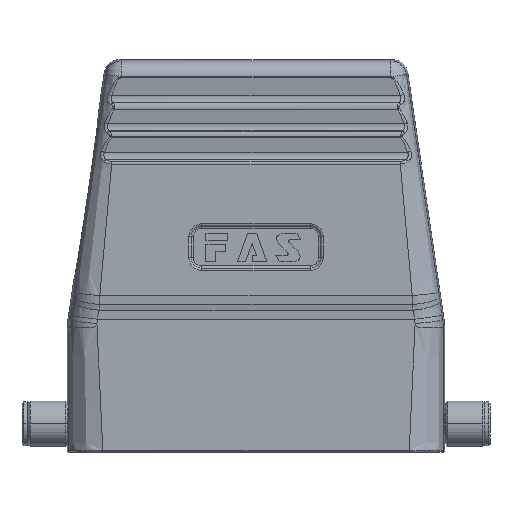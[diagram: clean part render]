
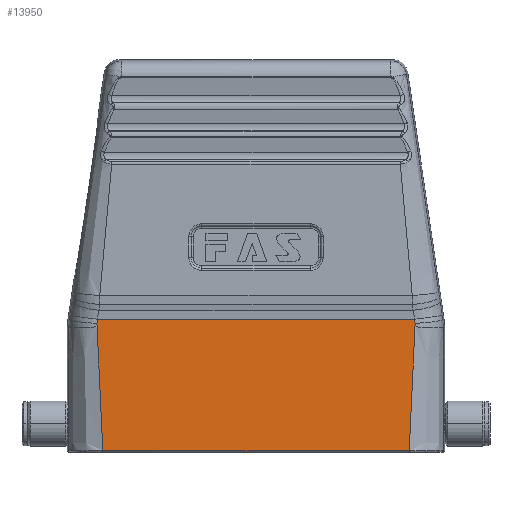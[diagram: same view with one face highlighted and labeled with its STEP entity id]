
A CAD part, top view. The second image highlights one B-rep face of the part: STEP entity #13950.
In plain terms, the highlighted planar face has unit normal (0, 0, 1).
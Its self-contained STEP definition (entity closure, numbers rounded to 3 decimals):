
#11 = DIRECTION ( 'NONE',  ( -1., 0., 0. ) ) ;
#166 = CARTESIAN_POINT ( 'NONE',  ( 30.786, 52.442, 21.5 ) ) ;
#414 = CARTESIAN_POINT ( 'NONE',  ( 30.772, 51.92, 21.5 ) ) ;
#696 = CARTESIAN_POINT ( 'NONE',  ( -30.734, 53.055, 21.5 ) ) ;
#1313 = CARTESIAN_POINT ( 'NONE',  ( -32.019, 27.39, 21.5 ) ) ;
#1537 = CARTESIAN_POINT ( 'NONE',  ( -30.091, 42.482, 21.5 ) ) ;
#1945 = EDGE_CURVE ( 'NONE', #23430, #14913, #9013, .T. ) ;
#2102 =( BOUNDED_CURVE ( )  B_SPLINE_CURVE ( 3, ( #21026, #23109, #17092, #15256, #23030, #13505 ),
 .UNSPECIFIED., .F., .T. ) 
 B_SPLINE_CURVE_WITH_KNOTS ( ( 4, 1, 1, 4 ),
 ( 0., 0.333, 0.666, 1. ),
 .UNSPECIFIED. ) 
 CURVE ( )  GEOMETRIC_REPRESENTATION_ITEM ( )  RATIONAL_B_SPLINE_CURVE ( ( 1.17, 1.17, 1.17, 1.17, 1.17, 1.17 ) ) 
 REPRESENTATION_ITEM ( '' )  );
#2314 = EDGE_CURVE ( 'NONE', #19458, #11354, #14266, .T. ) ;
#2642 = CARTESIAN_POINT ( 'NONE',  ( 30.765, 51.846, 21.5 ) ) ;
#3372 = CARTESIAN_POINT ( 'NONE',  ( 29.839, 35.892, 21.5 ) ) ;
#4252 = VERTEX_POINT ( 'NONE', #22242 ) ;
#4399 = CARTESIAN_POINT ( 'NONE',  ( -30.702, 53.323, 21.5 ) ) ;
#5730 = DIRECTION ( 'NONE',  ( 0., 0., -1. ) ) ;
#6364 = EDGE_CURVE ( 'NONE', #20448, #9162, #2102, .T. ) ;
#6987 = ORIENTED_EDGE ( 'NONE', *, *, #23832, .F. ) ;
#7481 = CARTESIAN_POINT ( 'NONE',  ( -30.765, 51.846, 21.5 ) ) ;
#8933 = CARTESIAN_POINT ( 'NONE',  ( 29.647, 27.898, 21.5 ) ) ;
#9013 =( BOUNDED_CURVE ( )  B_SPLINE_CURVE ( 3, ( #20898, #20731, #20970, #18961, #21055, #16956 ),
 .UNSPECIFIED., .F., .T. ) 
 B_SPLINE_CURVE_WITH_KNOTS ( ( 4, 1, 1, 4 ),
 ( 0., 0.334, 0.667, 1. ),
 .UNSPECIFIED. ) 
 CURVE ( )  GEOMETRIC_REPRESENTATION_ITEM ( )  RATIONAL_B_SPLINE_CURVE ( ( 1.17, 1.17, 1.17, 1.17, 1.17, 1.17 ) ) 
 REPRESENTATION_ITEM ( '' )  );
#9147 = CARTESIAN_POINT ( 'NONE',  ( -29.647, 27.898, 21.5 ) ) ;
#9162 = VERTEX_POINT ( 'NONE', #17586 ) ;
#9296 =( BOUNDED_CURVE ( )  B_SPLINE_CURVE ( 3, ( #9147, #11088, #24473, #12857, #13026, #1537, #11330, #13509, #21028, #21195 ),
 .UNSPECIFIED., .F., .T. ) 
 B_SPLINE_CURVE_WITH_KNOTS ( ( 4, 1, 1, 1, 1, 1, 1, 4 ),
 ( 0., 0.063, 0.269, 0.452, 0.614, 0.759, 0.887, 1. ),
 .UNSPECIFIED. ) 
 CURVE ( )  GEOMETRIC_REPRESENTATION_ITEM ( )  RATIONAL_B_SPLINE_CURVE ( ( 1.17, 1.17, 1.17, 1.17, 1.17, 1.17, 1.17, 1.17, 1.17, 1.17 ) ) 
 REPRESENTATION_ITEM ( '' )  );
#9409 = DIRECTION ( 'NONE',  ( 0., 1., 0. ) ) ;
#9991 = EDGE_CURVE ( 'NONE', #9162, #4252, #11158, .T. ) ;
#10104 = CARTESIAN_POINT ( 'NONE',  ( 30.765, 51.846, 21.5 ) ) ;
#10125 = ORIENTED_EDGE ( 'NONE', *, *, #10715, .F. ) ;
#10230 = CARTESIAN_POINT ( 'NONE',  ( -30.779, 52.607, 21.5 ) ) ;
#10715 = EDGE_CURVE ( 'NONE', #22496, #20448, #9296, .T. ) ;
#10716 = CARTESIAN_POINT ( 'NONE',  ( 30.783, 52.517, 21.5 ) ) ;
#10754 = EDGE_CURVE ( 'NONE', #11354, #22496, #20087, .T. ) ;
#10771 = PLANE ( 'NONE',  #14781 ) ;
#10811 = VECTOR ( 'NONE', #11, 1000. ) ;
#10964 = CARTESIAN_POINT ( 'NONE',  ( 30.366, 47.874, 21.5 ) ) ;
#11088 = CARTESIAN_POINT ( 'NONE',  ( -29.661, 28.405, 21.5 ) ) ;
#11158 =( BOUNDED_CURVE ( )  B_SPLINE_CURVE ( 3, ( #17765, #10230, #12189, #696, #17860, #4399 ),
 .UNSPECIFIED., .F., .T. ) 
 B_SPLINE_CURVE_WITH_KNOTS ( ( 4, 1, 1, 4 ),
 ( 0., 0.333, 0.666, 1. ),
 .UNSPECIFIED. ) 
 CURVE ( )  GEOMETRIC_REPRESENTATION_ITEM ( )  RATIONAL_B_SPLINE_CURVE ( ( 1.17, 1.17, 1.17, 1.17, 1.17, 1.17 ) ) 
 REPRESENTATION_ITEM ( '' )  );
#11330 = CARTESIAN_POINT ( 'NONE',  ( -30.28, 45.952, 21.5 ) ) ;
#11354 = VERTEX_POINT ( 'NONE', #8933 ) ;
#12189 = CARTESIAN_POINT ( 'NONE',  ( -30.764, 52.787, 21.5 ) ) ;
#12724 = CARTESIAN_POINT ( 'NONE',  ( 30.702, 53.323, 21.5 ) ) ;
#12741 = CARTESIAN_POINT ( 'NONE',  ( 29.647, 27.898, 21.5 ) ) ;
#12857 = CARTESIAN_POINT ( 'NONE',  ( -29.808, 34.165, 21.5 ) ) ;
#13026 = CARTESIAN_POINT ( 'NONE',  ( -29.936, 38.568, 21.5 ) ) ;
#13505 = CARTESIAN_POINT ( 'NONE',  ( -30.783, 52.517, 21.5 ) ) ;
#13509 = CARTESIAN_POINT ( 'NONE',  ( -30.501, 49.025, 21.5 ) ) ;
#13724 = EDGE_CURVE ( 'NONE', #14913, #19458, #22575, .T. ) ;
#13950 = ADVANCED_FACE ( 'NONE', ( #24509 ), #10771, .F. ) ;
#14266 = B_SPLINE_CURVE_WITH_KNOTS ( 'NONE', 3,
 ( #16567, #10964, #14821, #3372, #20334, #12741 ),
 .UNSPECIFIED., .F., .F.,
 ( 4, 2, 4 ),
 ( 0., 0.5, 1. ),
 .UNSPECIFIED. ) ;
#14781 = AXIS2_PLACEMENT_3D ( 'NONE', #1313, #5730, #9409 ) ;
#14821 = CARTESIAN_POINT ( 'NONE',  ( 30.142, 43.881, 21.5 ) ) ;
#14913 = VERTEX_POINT ( 'NONE', #10716 ) ;
#15133 = ORIENTED_EDGE ( 'NONE', *, *, #6364, .F. ) ;
#15256 = CARTESIAN_POINT ( 'NONE',  ( -30.79, 52.292, 21.5 ) ) ;
#15428 = CARTESIAN_POINT ( 'NONE',  ( 30.783, 52.517, 21.5 ) ) ;
#16567 = CARTESIAN_POINT ( 'NONE',  ( 30.765, 51.846, 21.5 ) ) ;
#16956 = CARTESIAN_POINT ( 'NONE',  ( 30.783, 52.517, 21.5 ) ) ;
#17043 = ORIENTED_EDGE ( 'NONE', *, *, #13724, .F. ) ;
#17092 = CARTESIAN_POINT ( 'NONE',  ( -30.784, 52.068, 21.5 ) ) ;
#17586 = CARTESIAN_POINT ( 'NONE',  ( -30.783, 52.517, 21.5 ) ) ;
#17739 = VECTOR ( 'NONE', #22919, 1000. ) ;
#17765 = CARTESIAN_POINT ( 'NONE',  ( -30.783, 52.517, 21.5 ) ) ;
#17860 = CARTESIAN_POINT ( 'NONE',  ( -30.712, 53.234, 21.5 ) ) ;
#17926 = ORIENTED_EDGE ( 'NONE', *, *, #2314, .F. ) ;
#18740 = ORIENTED_EDGE ( 'NONE', *, *, #1945, .F. ) ;
#18961 = CARTESIAN_POINT ( 'NONE',  ( 30.764, 52.787, 21.5 ) ) ;
#19458 = VERTEX_POINT ( 'NONE', #2642 ) ;
#20087 = LINE ( 'NONE', #21111, #10811 ) ;
#20334 = CARTESIAN_POINT ( 'NONE',  ( 29.76, 31.894, 21.5 ) ) ;
#20411 = ORIENTED_EDGE ( 'NONE', *, *, #9991, .F. ) ;
#20448 = VERTEX_POINT ( 'NONE', #7481 ) ;
#20731 = CARTESIAN_POINT ( 'NONE',  ( 30.712, 53.234, 21.5 ) ) ;
#20898 = CARTESIAN_POINT ( 'NONE',  ( 30.702, 53.323, 21.5 ) ) ;
#20970 = CARTESIAN_POINT ( 'NONE',  ( 30.734, 53.055, 21.5 ) ) ;
#21026 = CARTESIAN_POINT ( 'NONE',  ( -30.765, 51.846, 21.5 ) ) ;
#21028 = CARTESIAN_POINT ( 'NONE',  ( -30.674, 50.945, 21.5 ) ) ;
#21055 = CARTESIAN_POINT ( 'NONE',  ( 30.779, 52.607, 21.5 ) ) ;
#21111 = CARTESIAN_POINT ( 'NONE',  ( 0., 27.898, 21.5 ) ) ;
#21195 = CARTESIAN_POINT ( 'NONE',  ( -30.765, 51.846, 21.5 ) ) ;
#21455 = ORIENTED_EDGE ( 'NONE', *, *, #10754, .F. ) ;
#22159 = EDGE_LOOP ( 'NONE', ( #17043, #18740, #6987, #20411, #15133, #10125, #21455, #17926 ) ) ;
#22242 = CARTESIAN_POINT ( 'NONE',  ( -30.702, 53.323, 21.5 ) ) ;
#22496 = VERTEX_POINT ( 'NONE', #23877 ) ;
#22575 =( BOUNDED_CURVE ( )  B_SPLINE_CURVE ( 3, ( #15428, #166, #23502, #23588, #414, #10104 ),
 .UNSPECIFIED., .F., .T. ) 
 B_SPLINE_CURVE_WITH_KNOTS ( ( 4, 1, 1, 4 ),
 ( 0., 0.334, 0.667, 1. ),
 .UNSPECIFIED. ) 
 CURVE ( )  GEOMETRIC_REPRESENTATION_ITEM ( )  RATIONAL_B_SPLINE_CURVE ( ( 1.17, 1.17, 1.17, 1.17, 1.17, 1.17 ) ) 
 REPRESENTATION_ITEM ( '' )  );
#22864 = LINE ( 'NONE', #24686, #17739 ) ;
#22919 = DIRECTION ( 'NONE',  ( 1., 0., 0. ) ) ;
#23030 = CARTESIAN_POINT ( 'NONE',  ( -30.786, 52.442, 21.5 ) ) ;
#23109 = CARTESIAN_POINT ( 'NONE',  ( -30.772, 51.92, 21.5 ) ) ;
#23430 = VERTEX_POINT ( 'NONE', #12724 ) ;
#23502 = CARTESIAN_POINT ( 'NONE',  ( 30.79, 52.292, 21.5 ) ) ;
#23588 = CARTESIAN_POINT ( 'NONE',  ( 30.784, 52.068, 21.5 ) ) ;
#23832 = EDGE_CURVE ( 'NONE', #4252, #23430, #22864, .T. ) ;
#23877 = CARTESIAN_POINT ( 'NONE',  ( -29.647, 27.898, 21.5 ) ) ;
#24473 = CARTESIAN_POINT ( 'NONE',  ( -29.72, 30.554, 21.5 ) ) ;
#24509 = FACE_OUTER_BOUND ( 'NONE', #22159, .T. ) ;
#24686 = CARTESIAN_POINT ( 'NONE',  ( 0., 53.323, 21.5 ) ) ;
